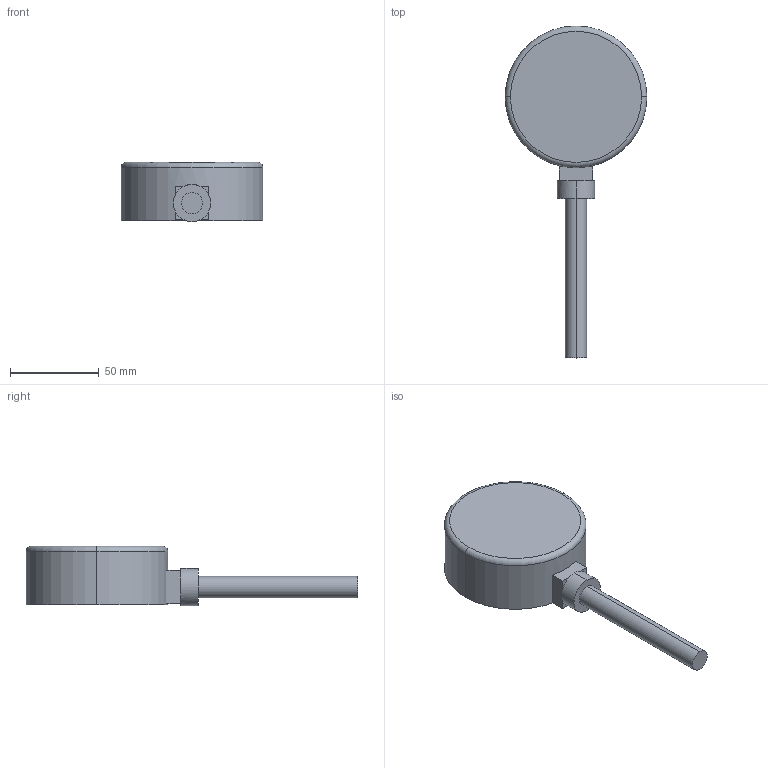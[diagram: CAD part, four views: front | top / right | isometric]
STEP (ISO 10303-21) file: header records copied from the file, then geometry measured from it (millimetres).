
FILE_DESCRIPTION (( 'STEP AP214' ), '1' );
FILE_NAME ('Termometr_bimetaliczny_x_0_3D_AFRISO.STEP', '2022-12-19T09:56:46', ( '' ), ( '' ), 'SwSTEP 2.0', 'SolidWorks 2022', '' );
FILE_SCHEMA (( 'AUTOMOTIVE_DESIGN' ));
Length unit declared in the file: millimetre
Products named in the file (1): Termometr_bimetaliczny_x_0_3D_AFRISO
Bounding box: 80 x 187.3 x 33.5 mm (x, y, z)
Volume: 181813.4 mm3; surface area: 22729.3 mm2
Topology: 1 solids, 1 shells, 24 faces, 50 edges, 30 vertices
Faces by surface type: plane 16, cylinder 6, torus 2
Entity records: 674 total; most frequent: DIRECTION 126, CARTESIAN_POINT 105, ORIENTED_EDGE 100, AXIS2_PLACEMENT_3D 51, EDGE_CURVE 50, VERTEX_POINT 30, CIRCLE 26, EDGE_LOOP 26
